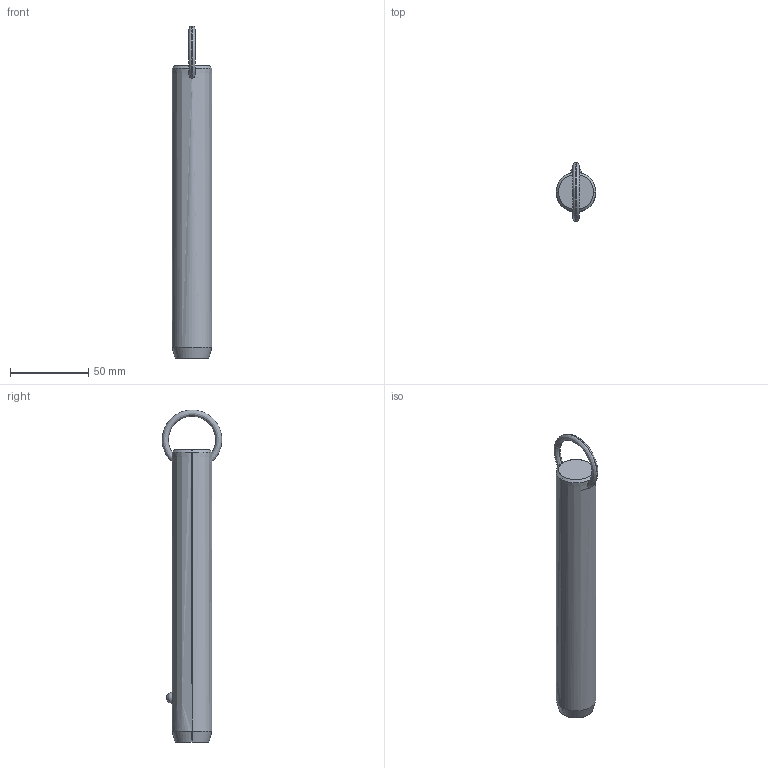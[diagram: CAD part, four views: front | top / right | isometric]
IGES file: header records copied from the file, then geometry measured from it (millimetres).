
Start section: SolidWorks IGES file using analytic representation for surfaces
Global section: file name: C:\Users\liam_\OneDrive\Documents\WORK\Work for WixRoyd\Job Files\J-00019 - Matt Davis CAD Checking\04. CAD Drawings\automotion20190605\P1250.2_v2\P1250.2_v2_20190729_IGES\P1250.100-560.igs; native system: SolidWorks 2017; preprocessor: SolidWorks 2017; author: liam_; date: 190730.174457; units: millimetre
Bounding box: 25.4 x 38.09 x 212 mm (x, y, z)
Surface area: 16663.3 mm2 (no closed solid volume)
Topology: 0 solids, 0 shells, 12 faces, 298 edges, 296 vertices
Faces by surface type: revolution 8, bspline 4
